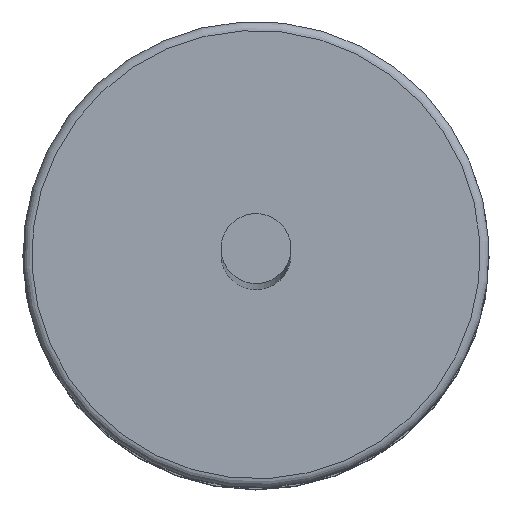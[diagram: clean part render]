
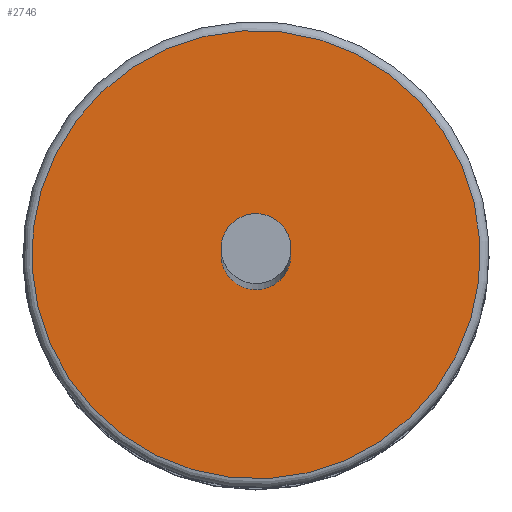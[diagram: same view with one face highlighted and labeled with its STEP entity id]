
A CAD part, top view. The second image highlights one B-rep face of the part: STEP entity #2746.
In plain terms, the highlighted planar face has unit normal (0, 0, 1) as drawn and (0, -1, 0) by its records, which use the part's own axes.
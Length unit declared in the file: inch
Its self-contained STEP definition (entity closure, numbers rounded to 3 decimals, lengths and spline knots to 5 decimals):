
#45=FACE_BOUND('',#495,.T.);
#176=PLANE('',#2971);
#328=FACE_OUTER_BOUND('',#494,.T.);
#494=EDGE_LOOP('',(#2554,#2555));
#495=EDGE_LOOP('',(#2556));
#565=CIRCLE('',#2961,0.01181);
#566=CIRCLE('',#2964,0.07574);
#570=CIRCLE('',#2968,0.07574);
#1353=VERTEX_POINT('',#6161);
#1354=VERTEX_POINT('',#6166);
#1355=VERTEX_POINT('',#6167);
#1751=EDGE_CURVE('',#1353,#1353,#565,.T.);
#1752=EDGE_CURVE('',#1354,#1355,#566,.T.);
#1756=EDGE_CURVE('',#1355,#1354,#570,.T.);
#2554=ORIENTED_EDGE('',*,*,#1752,.F.);
#2555=ORIENTED_EDGE('',*,*,#1756,.F.);
#2556=ORIENTED_EDGE('',*,*,#1751,.T.);
#2746=ADVANCED_FACE('',(#328,#45),#176,.F.);
#2961=AXIS2_PLACEMENT_3D('',#6163,#3465,#3466);
#2964=AXIS2_PLACEMENT_3D('',#6168,#3471,#3472);
#2968=AXIS2_PLACEMENT_3D('',#6174,#3479,#3480);
#2971=AXIS2_PLACEMENT_3D('',#6179,#3486,#3487);
#3465=DIRECTION('center_axis',(0.,1.,0.));
#3466=DIRECTION('ref_axis',(-1.,0.,0.));
#3471=DIRECTION('center_axis',(0.,1.,0.));
#3472=DIRECTION('ref_axis',(1.,0.,0.));
#3479=DIRECTION('center_axis',(0.,1.,0.));
#3480=DIRECTION('ref_axis',(1.,0.,0.));
#3486=DIRECTION('center_axis',(0.,1.,0.));
#3487=DIRECTION('ref_axis',(0.,0.,1.));
#6161=CARTESIAN_POINT('',(0.01181,0.,0.));
#6163=CARTESIAN_POINT('Origin',(0.,0.,0.));
#6166=CARTESIAN_POINT('',(-0.07574,0.,0.));
#6167=CARTESIAN_POINT('',(0.,0.,0.07574));
#6168=CARTESIAN_POINT('Origin',(0.,0.,0.));
#6174=CARTESIAN_POINT('Origin',(0.,0.,0.));
#6179=CARTESIAN_POINT('Origin',(0.,0.,0.));
